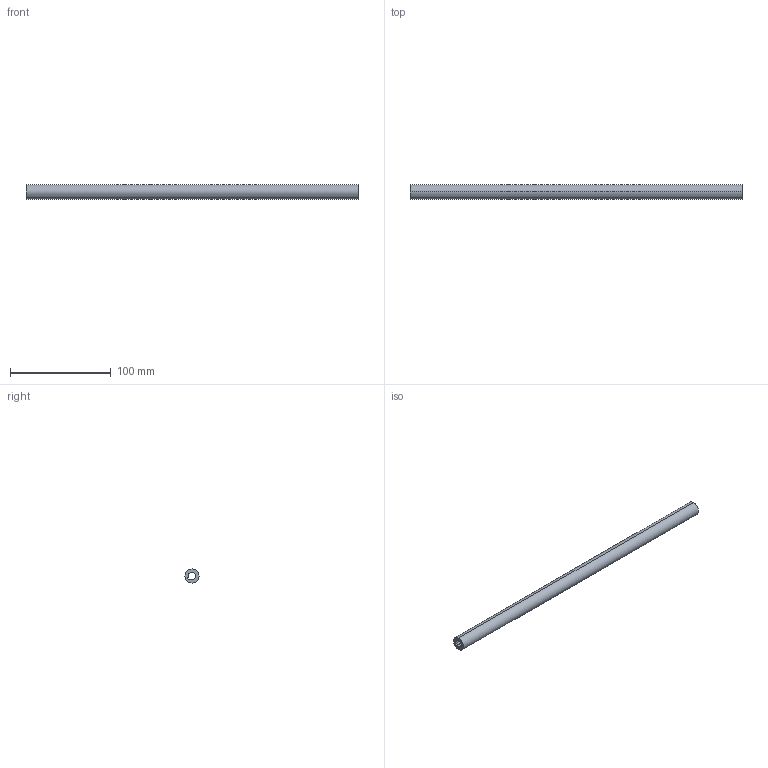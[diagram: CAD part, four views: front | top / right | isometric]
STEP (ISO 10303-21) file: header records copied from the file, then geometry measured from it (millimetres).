
FILE_DESCRIPTION (( 'STEP AP214' ), '1' );
FILE_NAME ('SyncronisationsstangeNova_Pro_KAB_0450_KS16.step', '2009-11-24T08:53:14', ( 'Grass' ), ( 'Grass GmbH' ), 'SwSTEP 2.0', 'SolidWorks 2009', '' );
FILE_SCHEMA (( 'AUTOMOTIVE_DESIGN' ));
Length unit declared in the file: millimetre
Products named in the file (1): SyncronisationsstangeNova_Pro_KAB_0450_KS16
Bounding box: 329 x 14 x 14 mm (x, y, z)
Volume: 35574.7 mm3; surface area: 23069.6 mm2
Topology: 1 solids, 1 shells, 15 faces, 39 edges, 26 vertices
Faces by surface type: cylinder 11, plane 4
Entity records: 513 total; most frequent: DIRECTION 93, CARTESIAN_POINT 81, ORIENTED_EDGE 78, EDGE_CURVE 39, AXIS2_PLACEMENT_3D 38, VERTEX_POINT 26, CIRCLE 22, VECTOR 17
